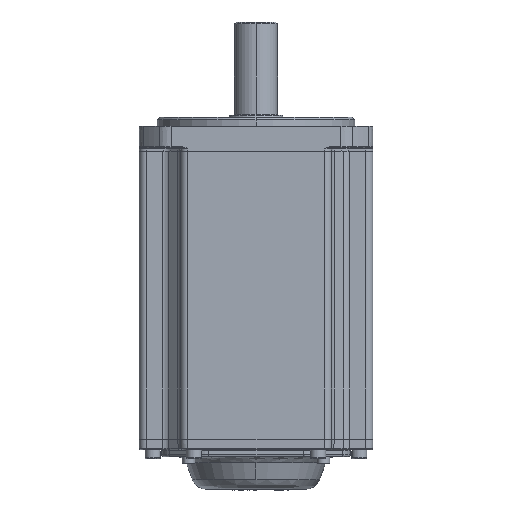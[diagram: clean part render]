
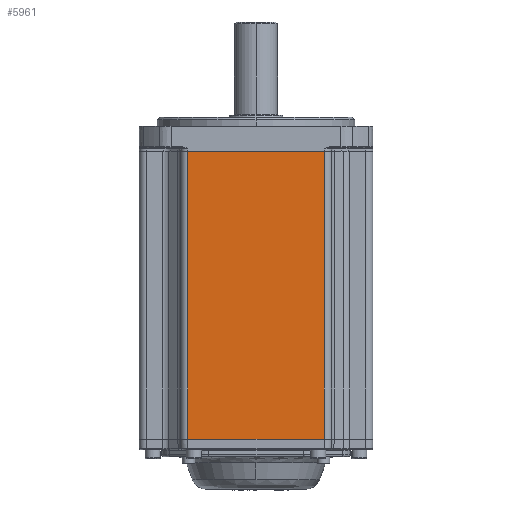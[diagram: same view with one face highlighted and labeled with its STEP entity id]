
A CAD part, front view. The second image highlights one B-rep face of the part: STEP entity #5961.
In plain terms, the highlighted planar face has unit normal (0, -1, 0).
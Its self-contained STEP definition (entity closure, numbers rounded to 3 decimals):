
#1390 = EDGE_CURVE ( 'NONE', #8241, #27667, #6304, .T. ) ;
#5961 = ADVANCED_FACE ( 'NONE', ( #57678 ), #10980, .F. ) ;
#6304 = LINE ( 'NONE', #10647, #43142 ) ;
#8241 = VERTEX_POINT ( 'NONE', #18492 ) ;
#9290 = ORIENTED_EDGE ( 'NONE', *, *, #46038, .T. ) ;
#10647 = CARTESIAN_POINT ( 'NONE',  ( -38., -65., 887.8 ) ) ;
#10980 = PLANE ( 'NONE',  #43202 ) ;
#11343 = LINE ( 'NONE', #55391, #30255 ) ;
#11537 = CARTESIAN_POINT ( 'NONE',  ( -38., -65., -112.2 ) ) ;
#11864 = ORIENTED_EDGE ( 'NONE', *, *, #36299, .F. ) ;
#13646 = CARTESIAN_POINT ( 'NONE',  ( 38., -65., 47.8 ) ) ;
#14723 = LINE ( 'NONE', #17350, #22975 ) ;
#16362 = DIRECTION ( 'NONE',  ( 0., 0., 1. ) ) ;
#17350 = CARTESIAN_POINT ( 'NONE',  ( -42., -65., -112.2 ) ) ;
#18492 = CARTESIAN_POINT ( 'NONE',  ( -38., -65., 47.8 ) ) ;
#22975 = VECTOR ( 'NONE', #27068, 1000. ) ;
#25141 = DIRECTION ( 'NONE',  ( 0., 0., -1. ) ) ;
#26601 = DIRECTION ( 'NONE',  ( 1., 0., 0. ) ) ;
#27068 = DIRECTION ( 'NONE',  ( 1., 0., 0. ) ) ;
#27667 = VERTEX_POINT ( 'NONE', #11537 ) ;
#29936 = LINE ( 'NONE', #54039, #61517 ) ;
#30255 = VECTOR ( 'NONE', #26601, 1000. ) ;
#36299 = EDGE_CURVE ( 'NONE', #8241, #38420, #11343, .T. ) ;
#37836 = ORIENTED_EDGE ( 'NONE', *, *, #62222, .T. ) ;
#38420 = VERTEX_POINT ( 'NONE', #13646 ) ;
#39536 = CARTESIAN_POINT ( 'NONE',  ( -42., -65., 887.8 ) ) ;
#39946 = DIRECTION ( 'NONE',  ( 0., 1., 0. ) ) ;
#43142 = VECTOR ( 'NONE', #25141, 1000. ) ;
#43202 = AXIS2_PLACEMENT_3D ( 'NONE', #39536, #39946, #44803 ) ;
#44803 = DIRECTION ( 'NONE',  ( 0., 0., 1. ) ) ;
#45055 = ORIENTED_EDGE ( 'NONE', *, *, #1390, .T. ) ;
#46038 = EDGE_CURVE ( 'NONE', #54388, #38420, #29936, .T. ) ;
#50810 = EDGE_LOOP ( 'NONE', ( #11864, #45055, #37836, #9290 ) ) ;
#54039 = CARTESIAN_POINT ( 'NONE',  ( 38., -65., 887.8 ) ) ;
#54388 = VERTEX_POINT ( 'NONE', #60441 ) ;
#55391 = CARTESIAN_POINT ( 'NONE',  ( -42., -65., 47.8 ) ) ;
#57678 = FACE_OUTER_BOUND ( 'NONE', #50810, .T. ) ;
#60441 = CARTESIAN_POINT ( 'NONE',  ( 38., -65., -112.2 ) ) ;
#61517 = VECTOR ( 'NONE', #16362, 1000. ) ;
#62222 = EDGE_CURVE ( 'NONE', #27667, #54388, #14723, .T. ) ;
